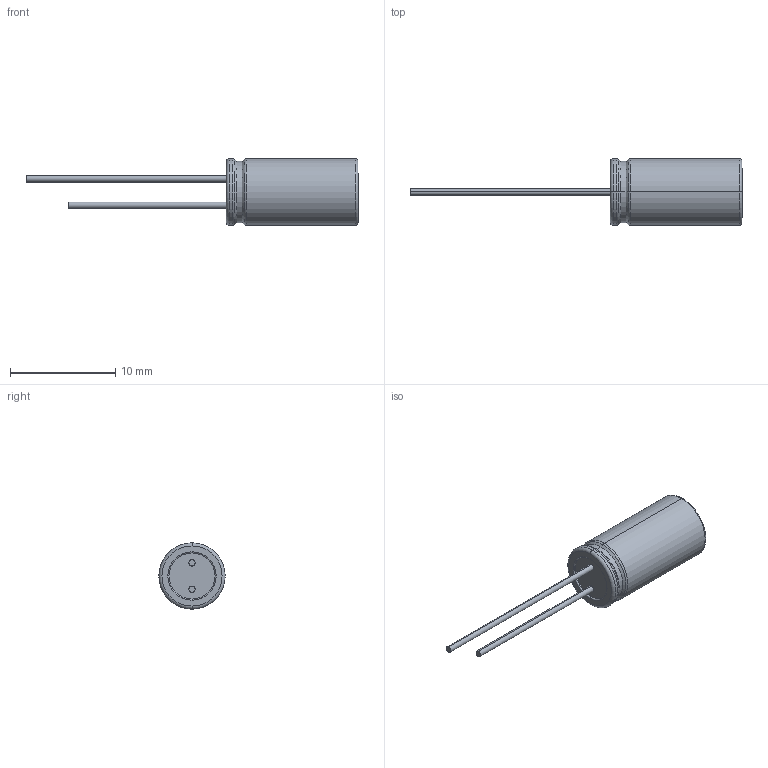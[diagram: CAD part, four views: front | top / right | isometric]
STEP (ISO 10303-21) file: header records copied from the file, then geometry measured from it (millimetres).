
FILE_DESCRIPTION((''),'2;1');
FILE_NAME('HYBRID_RADIAL63X125','2020-05-20T',('xy'),(''),'PRO/ENGINEER BY PARAMETRIC TECHNOLOGY CORPORATION, 2009380','PRO/ENGINEER BY PARAMETRIC TECHNOLOGY CORPORATION, 2009380','');
FILE_SCHEMA(('CONFIG_CONTROL_DESIGN'));
Length unit declared in the file: millimetre
Products named in the file (1): HYBRID_RADIAL63X125
Bounding box: 31.5 x 6.3 x 6.3 mm (x, y, z)
Volume: 391.9 mm3; surface area: 374.8 mm2
Topology: 1 solids, 1 shells, 415 faces, 1146 edges, 758 vertices
Faces by surface type: plane 387, cylinder 13, torus 11, cone 4
Entity records: 13005 total; most frequent: CARTESIAN_POINT 2328, ORIENTED_EDGE 2292, DIRECTION 2020, EDGE_CURVE 1146, VECTOR 1098, LINE 1098, VERTEX_POINT 758, AXIS2_PLACEMENT_3D 461
